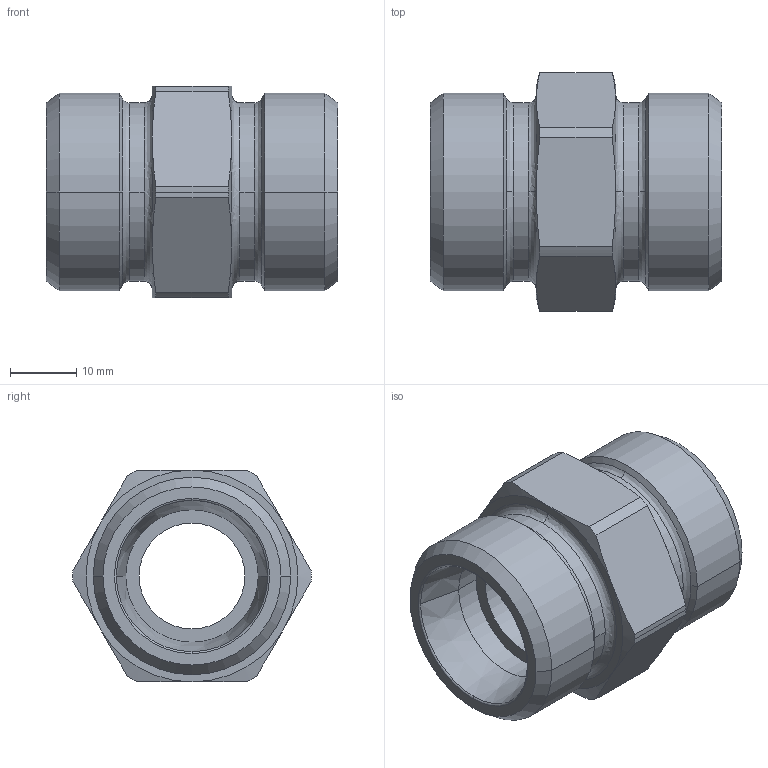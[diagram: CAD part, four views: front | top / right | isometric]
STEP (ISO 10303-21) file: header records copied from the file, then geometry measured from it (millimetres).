
FILE_DESCRIPTION((''),'2;1');
FILE_NAME('103520.stp','2007-10-31T11:32:40',(''),(''),'AutoCAD STEP 2000i','AutoCAD 2000i',', , ');
FILE_SCHEMA(('CONFIG_CONTROL_DESIGN'));
Length unit declared in the file: millimetre
Products named in the file (2): 103520.0; CHIAVE SMUSSATA#0
Assembly tree (1 placements, depth 2):
  103520.0
    CHIAVE SMUSSATA#0
Bounding box: 44 x 36 x 32 mm (x, y, z)
Volume: 19618.2 mm3; surface area: 8017.2 mm2
Topology: 1 solids, 1 shells, 70 faces, 172 edges, 108 vertices
Faces by surface type: cone 24, cylinder 22, plane 12, bspline 8, torus 4
Entity records: 2513 total; most frequent: CARTESIAN_POINT 752, DIRECTION 384, ORIENTED_EDGE 344, AXIS2_PLACEMENT_3D 172, EDGE_CURVE 172, VERTEX_POINT 108, CIRCLE 108, EDGE_LOOP 76
